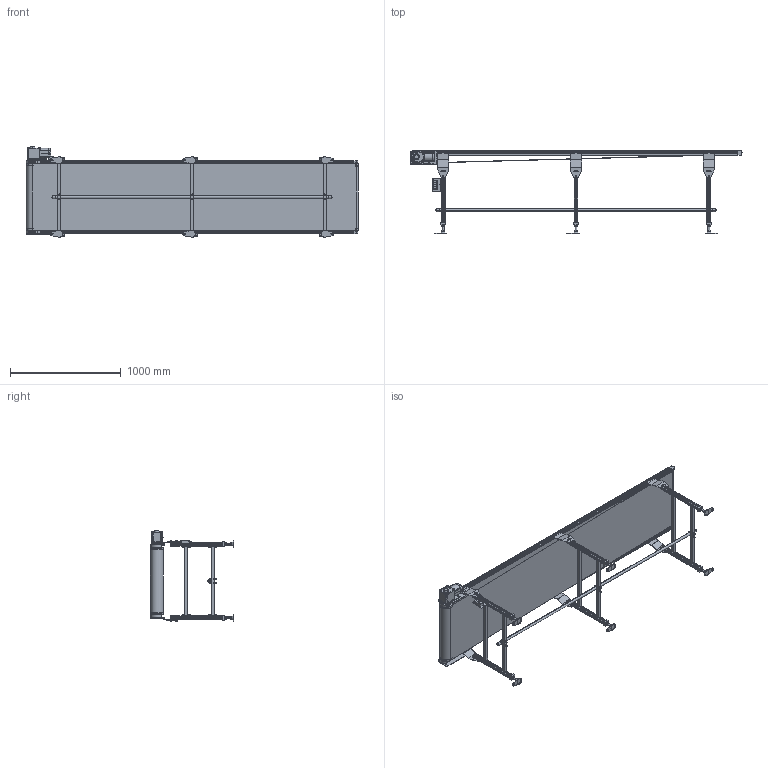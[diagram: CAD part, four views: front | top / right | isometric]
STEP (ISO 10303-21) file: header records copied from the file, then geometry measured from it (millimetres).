
FILE_DESCRIPTION( (''), '2;1');
FILE_NAME ('MB23-HS-309-600-300-L-K-100-O.stp','2025-02-17T10:44:32',(''),(''),'spGate 20.6.2 (****-****-****-****)','','');
FILE_SCHEMA (('AUTOMOTIVE_DESIGN'));
Length unit declared in the file: millimetre
Products named in the file (57): NewModel; MB23-HS-600-3000-L; TEMP_X_T-prt0; TEMP_X_T-prt1; TEMP_X_T-prt2; TEMP_X_T-prt3; TEMP_X_T-prt4; TEMP_X_T-prt5; TEMP_X_T-prt6; TEMP_X_T-prt7; TEMP_X_T-prt8; TEMP_X_T-prt9; TEMP_X_T-prt10; TEMP_X_T-prt11; TEMP_X_T-prt12; TEMP_X_T-prt13; TEMP_X_T-prt14; TEMP_X_T-prt15; TEMP_X_T-prt16; TEMP_X_T-prt17; TEMP_X_T-prt18; TEMP_X_T-prt19; TEMP_X_T-prt20; TEMP_X_T-prt21; TEMP_X_T-prt22; TEMP_X_T-prt23; TEMP_X_T-prt24; TEMP_X_T-prt25; TEMP_X_T-prt26; TEMP_X_T-prt27; TEMP_X_T-prt28; TEMP_X_T-prt29; TEMP_X_T-prt30; TEMP_X_T-prt31; TEMP_X_T-prt32; TEMP_X_T-prt33; TEMP_X_T-prt34; TEMP_X_T-prt35; TEMP_X_T-prt36; TEMP_X_T-prt37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
Assembly tree (56 placements, depth 3):
  NewModel
    MB23-HS-600-3000-L
      TEMP_X_T-prt0
      TEMP_X_T-prt1
      TEMP_X_T-prt2
      TEMP_X_T-prt3
      TEMP_X_T-prt4
      TEMP_X_T-prt5
      TEMP_X_T-prt6
      TEMP_X_T-prt7
      TEMP_X_T-prt8
      TEMP_X_T-prt9
      TEMP_X_T-prt10
      TEMP_X_T-prt11
      TEMP_X_T-prt12
      TEMP_X_T-prt13
      TEMP_X_T-prt14
      TEMP_X_T-prt15
      TEMP_X_T-prt16
      TEMP_X_T-prt17
      TEMP_X_T-prt18
      TEMP_X_T-prt19
      TEMP_X_T-prt20
      TEMP_X_T-prt21
      TEMP_X_T-prt22
      TEMP_X_T-prt23
      TEMP_X_T-prt24
      TEMP_X_T-prt25
      TEMP_X_T-prt26
      TEMP_X_T-prt27
      TEMP_X_T-prt28
      TEMP_X_T-prt29
      TEMP_X_T-prt30
      TEMP_X_T-prt31
      TEMP_X_T-prt32
      TEMP_X_T-prt33
      TEMP_X_T-prt34
      TEMP_X_T-prt35
      TEMP_X_T-prt36
      TEMP_X_T-prt37
      TEMP_X_T-prt38
      TEMP_X_T-prt39
      TEMP_X_T-prt40
      TEMP_X_T-prt41
      TEMP_X_T-prt42
      TEMP_X_T-prt43
      TEMP_X_T-prt44
      TEMP_X_T-prt45
      TEMP_X_T-prt46
      TEMP_X_T-prt47
      TEMP_X_T-prt48
      TEMP_X_T-prt49
      TEMP_X_T-prt50
      TEMP_X_T-prt51
      TEMP_X_T-prt52
      TEMP_X_T-prt53
      TEMP_X_T-prt54
Bounding box: 3001.41 x 752.7 x 818 mm (x, y, z)
Volume: 26251699.4 mm3; surface area: 14645081.5 mm2
Topology: 55 solids, 55 shells, 2769 faces, 7010 edges, 4554 vertices
Faces by surface type: plane 1915, cylinder 716, bspline 130, sphere 8
Full cylindrical faces by diameter (mm): 38.2 x1
Entity records: 143604 total; most frequent: CARTESIAN_POINT 19150, ORIENTED_EDGE 13980, DIRECTION 13449, COLOUR_RGB 9814, PRESENTATION_STYLE_ASSIGNMENT 9814, STYLED_ITEM 9814, EDGE_CURVE 6990, DRAUGHTING_PRE_DEFINED_CURVE_FONT 6990
